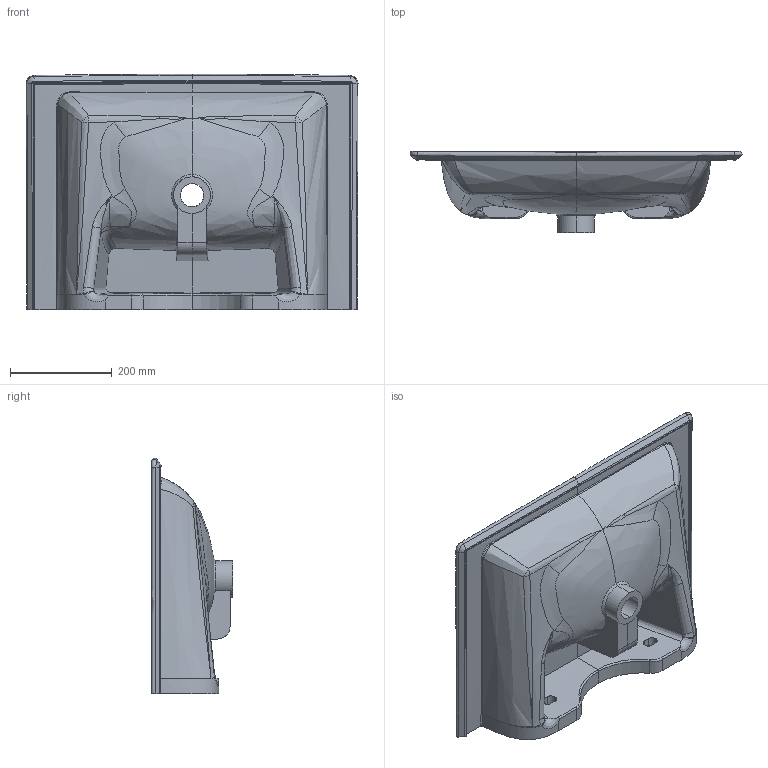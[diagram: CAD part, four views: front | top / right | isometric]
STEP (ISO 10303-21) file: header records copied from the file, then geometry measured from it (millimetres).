
FILE_DESCRIPTION (( 'STEP AP203' ), '1' );
FILE_NAME ('er065.STEP', '2023-02-23T13:06:58', ( '' ), ( '' ), 'SwSTEP 2.0', 'SolidWorks 2021', '' );
FILE_SCHEMA (( 'CONFIG_CONTROL_DESIGN' ));
Products named in the file (1): er065
Bounding box: 651.78 x 159.5 x 462.28 mm (x, y, z)
Volume: 9486087.5 mm3; surface area: 921766 mm2
Topology: 2 solids, 2 shells, 251 faces, 647 edges, 388 vertices
Faces by surface type: bspline 191, plane 28, cylinder 24, sphere 8
Entity records: 98022 total; most frequent: CARTESIAN_POINT 93551, ORIENTED_EDGE 1272, EDGE_CURVE 636, B_SPLINE_CURVE_WITH_KNOTS 429, VERTEX_POINT 388, DIRECTION 380, EDGE_LOOP 256, ADVANCED_FACE 251
